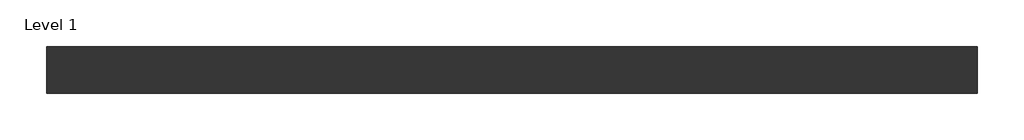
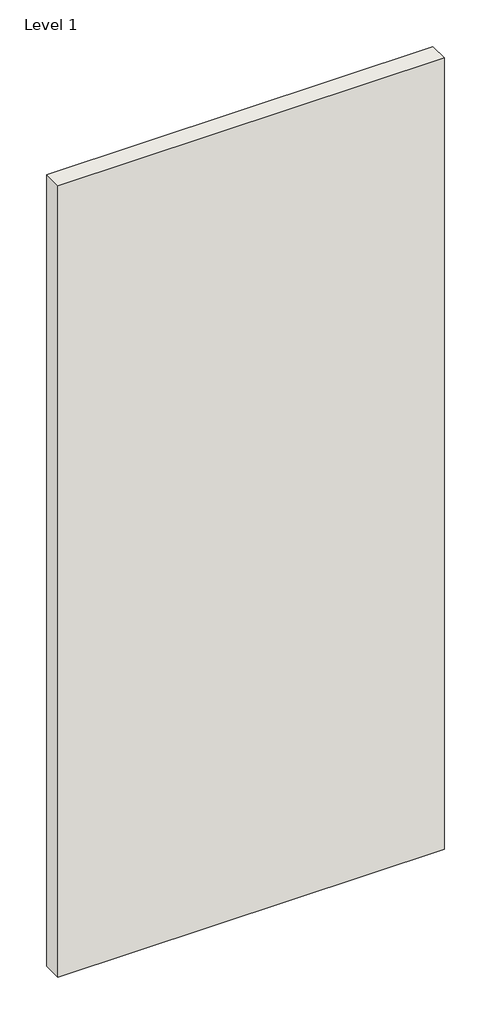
# One storey: 1 wall.
"""IFC4 building model written with IfcOpenShell, lengths in millimetres."""

from ifc_helpers import new_model, si_unit, origin, origin_with_axes, place, context, project, spatial, polyline, outline, extrude, element, save

model = new_model("IFC4")

# Units and contexts
model_context = context("Model", 3, world=origin())
ifc_project = project(units=[si_unit("LENGTHUNIT", "METRE", prefix="MILLI")], contexts=[model_context])

# Site, building, storey
site = spatial("IfcSite", under=ifc_project)
building = spatial("IfcBuilding", under=site)
storey = spatial("IfcBuildingStorey", under=building, Name="Level 1", Elevation=0.0)

# Wall
placement = place(None, origin())
element("IfcWall", 1, ObjectType="ECOVENT VN 032 60mm", at=placement, inside=storey, context=model_context, shape_type="SweptSolid", body=[
    extrude(outline(polyline([(-244.8369443, -1960.0445576), (-1444.8369443, -1960.0445576), (-1444.8369443, -1900.0445576), (-244.8369443, -1900.0445576), (-244.8369443, -1960.0445576)])), origin_with_axes(), (0.0, 0.0, 1.0), 2600.0),
])

save(model, "model.ifc")
